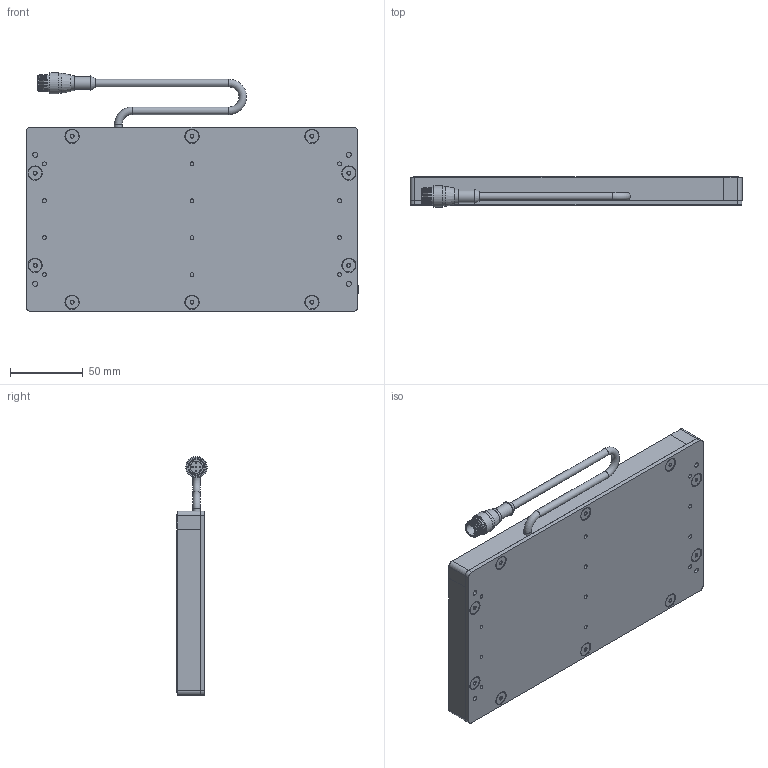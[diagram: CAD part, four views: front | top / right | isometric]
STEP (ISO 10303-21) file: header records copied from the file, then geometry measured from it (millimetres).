
FILE_DESCRIPTION (( 'STEP AP214' ), '1' );
FILE_NAME ('SBL48-XXX-WDC.STEP', '2026-04-17T19:08:02', ( '' ), ( '' ), 'SwSTEP 2.0', 'SolidWorks 2025', '' );
FILE_SCHEMA (( 'AUTOMOTIVE_DESIGN' ));
Length unit declared in the file: inch
Products named in the file (11): WD-SBLYYXX_4x8; 8-32 x 0.375 FHCS (92210A192)_92210A192; SBL3 to 18in rail_08in rail; SBL3 to 18in rail_08in No CG; BackPlate BLYYXX_0408; Hex Standoff .375 x 8-32; SBL48-XXX-WDC; MC Pigtail 24; SC Pigtail Complete 18_5pin; SBL3 to 18in rail_04in No CG; M12 Connector 4,5 and 8 pin_RS4.5T
Assembly tree (29 placements, depth 3):
  SBL48-XXX-WDC
    BackPlate BLYYXX_0408
    SBL3 to 18in rail_08in rail
    SBL3 to 18in rail_08in No CG
    SBL3 to 18in rail_04in No CG  x2
    SC Pigtail Complete 18_5pin
      MC Pigtail 24
      M12 Connector 4,5 and 8 pin_RS4.5T
    WD-SBLYYXX_4x8
    Hex Standoff .375 x 8-32  x10
    8-32 x 0.375 FHCS (92210A192)_92210A192  x10
Bounding box: 228.6 x 20.74 x 164.53 mm (x, y, z)
Volume: 287340.9 mm3; surface area: 174301.3 mm2
Topology: 28 solids, 28 shells, 748 faces, 1746 edges, 1075 vertices
Faces by surface type: plane 301, cylinder 220, cone 169, bspline 30, torus 23, sphere 5
Full cylindrical faces by diameter (mm): 0.762 x5, 2.705 x12, 3.454 x14, 4.496 x20, 5.207 x3, 6.604 x8, 6.858 x10, 8.382 x1, 8.636 x1, 9.119 x10, 10.16 x1, 10.541 x1, 11.938 x1, 13.716 x2, 14.732 x1
Entity records: 13729 total; most frequent: CARTESIAN_POINT 3748, DIRECTION 1869, ORIENTED_EDGE 1510, AXIS2_PLACEMENT_3D 763, EDGE_CURVE 755, EDGE_LOOP 571, VERTEX_POINT 554, FACE_OUTER_BOUND 432
